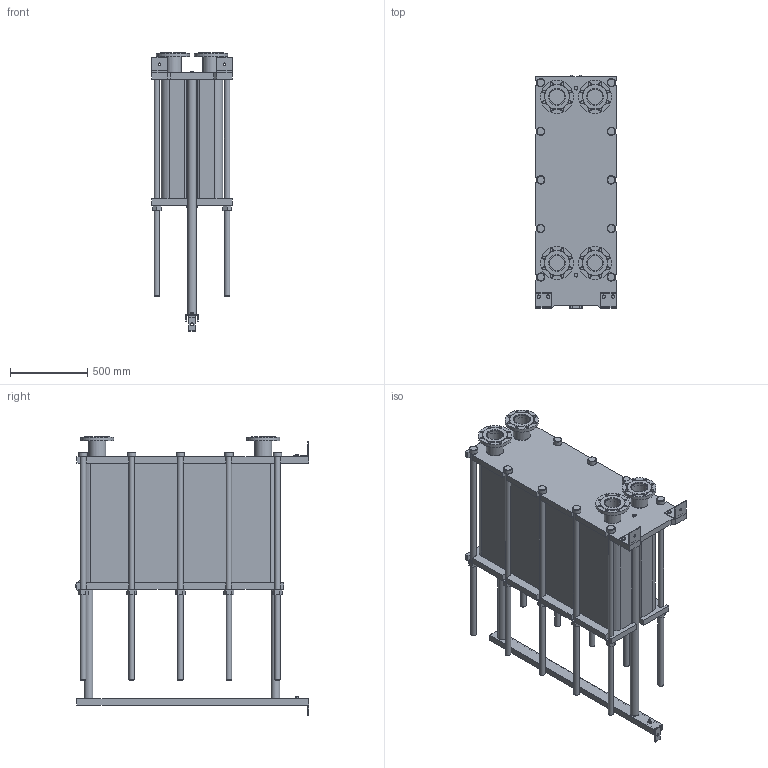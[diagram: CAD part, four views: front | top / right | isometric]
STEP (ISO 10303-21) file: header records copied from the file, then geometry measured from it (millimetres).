
FILE_DESCRIPTION(/* description */ (''),/* implementation_level */ '2;1');
FILE_NAME(/* name */ 'C:\Users\zhuro\Desktop\ENCO\TO\ЭН-04\ЭН-0,5-04-225-1.stp',/* time_stamp */ '2022-06-06T11:05:23+03:00',/* author */ ('zhuro'),/* organization */ (''),/* preprocessor_version */ 'ST-DEVELOPER v18.1',/* originating_system */ 'Autodesk Inventor 2022',/* authorisation */ '');
FILE_SCHEMA (('AUTOMOTIVE_DESIGN { 1 0 10303 214 3 1 1 }'));
Length unit declared in the file: millimetre
Products named in the file (1): ЭН-0,5-04-225-1
Bounding box: 520 x 1510 x 1802.5 mm (x, y, z)
Volume: 465870445.9 mm3; surface area: 11104023.8 mm2
Topology: 45 solids, 45 shells, 668 faces, 1611 edges, 1048 vertices
Faces by surface type: plane 457, cylinder 166, cone 39, torus 6
Full cylindrical faces by diameter (mm): 8 x4, 10 x2, 16 x8, 18 x35, 36 x25, 40 x2, 42 x1, 45 x4, 54 x10, 57 x2, 60 x10, 68 x2, 100 x4, 110 x8, 215 x4
Entity records: 23607 total; most frequent: CARTESIAN_POINT 7348, DIRECTION 3371, ORIENTED_EDGE 3142, EDGE_CURVE 1571, AXIS2_PLACEMENT_3D 1199, VERTEX_POINT 1044, LINE 973, VECTOR 973
